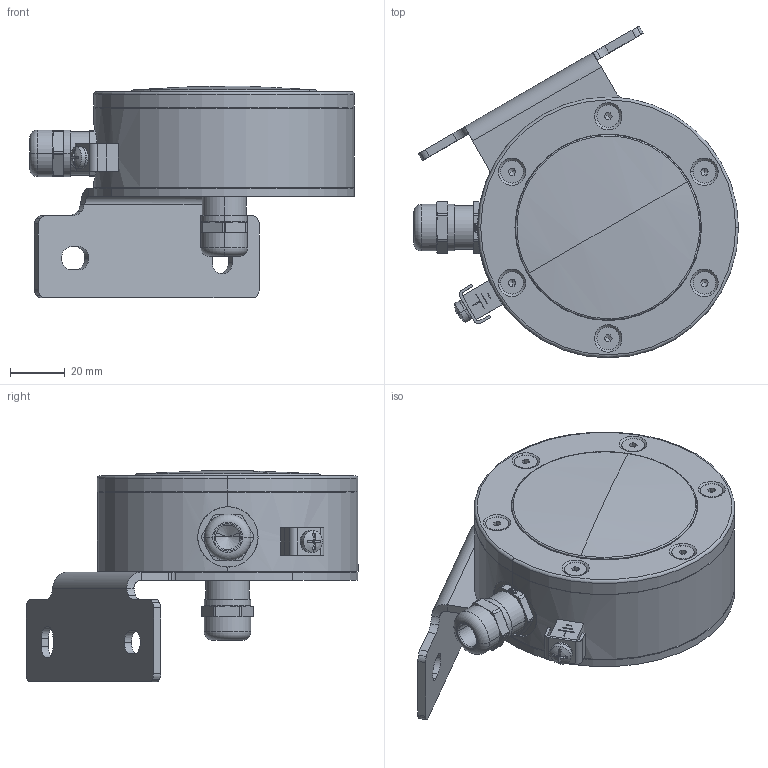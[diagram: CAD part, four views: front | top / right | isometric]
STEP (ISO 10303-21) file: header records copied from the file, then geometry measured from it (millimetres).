
FILE_DESCRIPTION(('STEP AP214'),'1');
FILE_NAME('AR-048.stp','2024-05-22T07:51:28',(' '),(' '),'Spatial InterOp 3D',' ',' ');
FILE_SCHEMA(('AUTOMOTIVE_DESIGN { 1 0 10303 214 1 1 1 1 }'));
Length unit declared in the file: metre
Products named in the file (18): aardnok; aardnok Geometry; M4x10; aard; M4 lock washer; AR-048; Patroon; screw_iso_10642-m4x12-12_9; Raam; AR-048-02_Lens; AR-0472; wartel_50_616_m16_lang; O-ring 69,57x1,78; din 966_m4x10; Nut_M4_DIN934; wartel_50_616_M16_kort; Ring; AR-047-04_bracket
Assembly tree (22 placements, depth 4):
  AR-048
    aardnok
      aardnok Geometry
      M4x10
      aard
      M4 lock washer
    Raam
      Patroon
        screw_iso_10642-m4x12-12_9  x6
      AR-048-02_Lens
    AR-0472
    wartel_50_616_m16_lang
    O-ring 69,57x1,78
    din 966_m4x10
    Nut_M4_DIN934
    wartel_50_616_M16_kort
    Ring
    AR-047-04_bracket
Bounding box: 118.5 x 121.06 x 77.24 mm (x, y, z)
Volume: 246247.2 mm3; surface area: 83872 mm2
Topology: 19 solids, 19 shells, 1289 faces, 3307 edges, 2058 vertices
Faces by surface type: cylinder 451, plane 430, cone 230, torus 104, sphere 47, bspline 27
Entity records: 43769 total; most frequent: CARTESIAN_POINT 14258, DIRECTION 6407, ORIENTED_EDGE 5982, EDGE_CURVE 2991, AXIS2_PLACEMENT_3D 2491, VERTEX_POINT 1873, LINE 1425, VECTOR 1425
